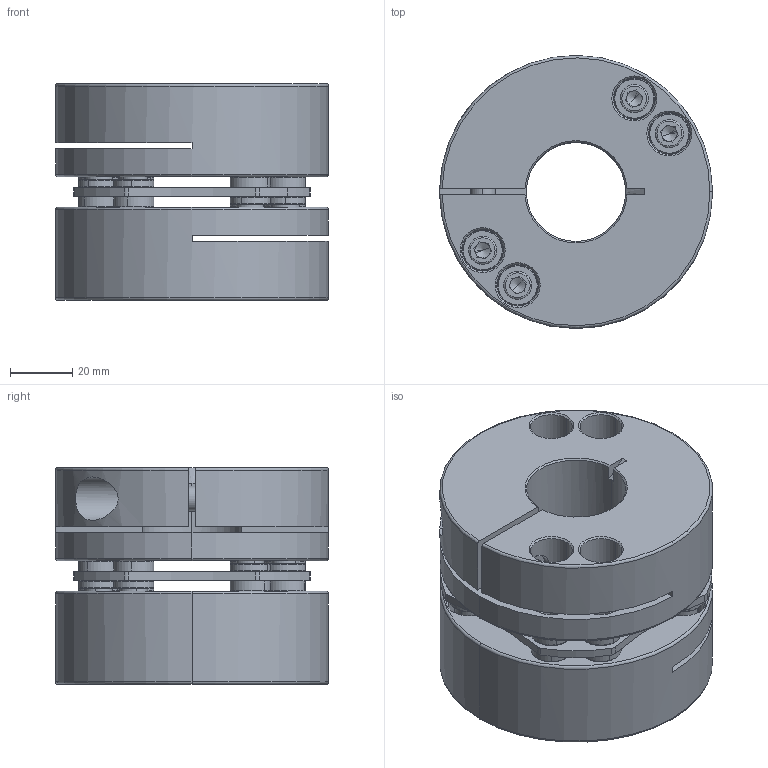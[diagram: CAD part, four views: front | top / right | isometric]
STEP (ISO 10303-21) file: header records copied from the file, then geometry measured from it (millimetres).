
FILE_DESCRIPTION (( 'STEP AP214' ), '1' );
FILE_NAME ('SHDS-88C.STEP', '2009-05-21T09:16:00', ( '歜煽繹' ), ( '' ), 'SwSTEP 2.0', 'SolidWorks 2007', '' );
FILE_SCHEMA (( 'AUTOMOTIVE_DESIGN' ));
Length unit declared in the file: millimetre
Products named in the file (8): collar-2_ル遽; SHDS-88C; M8x25; 誠纖掘葬-22_ル遽; M6x18; 憮蝶っ橫撬_ル遽; collar-1_ル遽; sus-plate1_ル遽
Assembly tree (30 placements, depth 3):
  SHDS-88C
    M8x25  x2
    誠纖掘葬-22_ル遽  x2
    憮蝶っ橫撬_ル遽
      M6x18  x8
      collar-1_ル遽  x8
      collar-2_ル遽  x8
      sus-plate1_ル遽
Bounding box: 88 x 88 x 69.9 mm (x, y, z)
Volume: 284352.2 mm3; surface area: 88774.1 mm2
Topology: 29 solids, 29 shells, 709 faces, 1561 edges, 922 vertices
Faces by surface type: plane 220, cylinder 217, torus 192, cone 80
Entity records: 6304 total; most frequent: DIRECTION 1166, CARTESIAN_POINT 1159, ORIENTED_EDGE 914, AXIS2_PLACEMENT_3D 494, EDGE_CURVE 457, VERTEX_POINT 283, CIRCLE 267, EDGE_LOOP 244
